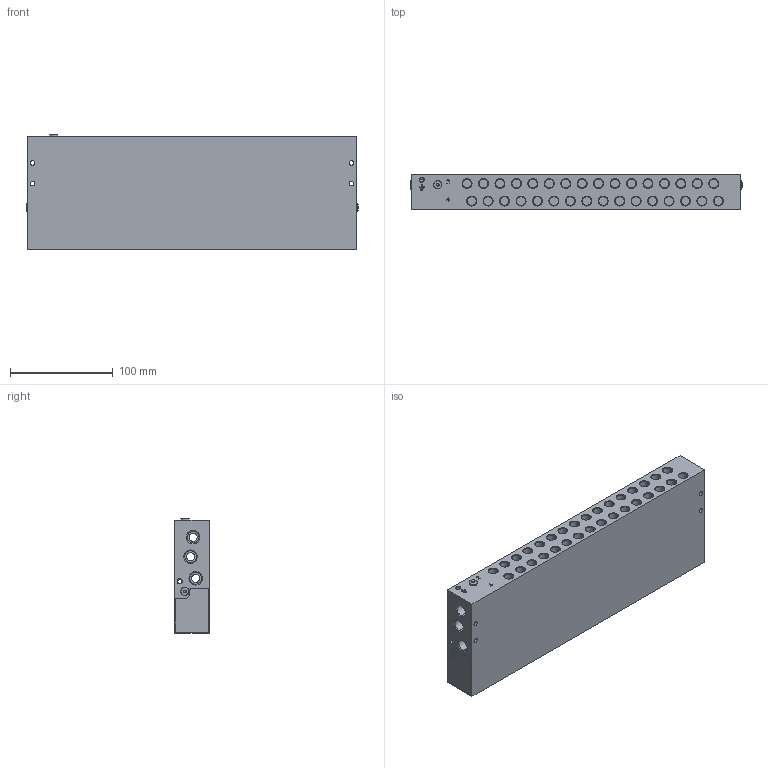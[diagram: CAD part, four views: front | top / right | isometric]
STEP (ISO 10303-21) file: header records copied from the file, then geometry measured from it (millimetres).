
FILE_DESCRIPTION (( 'STEP AP214' ), '1' );
FILE_NAME ('GÖVDE.STEP', '2026-07-24T08:38:21', ( '' ), ( '' ), 'SwSTEP 2.0', 'SolidWorks 2023', '' );
FILE_SCHEMA (( 'AUTOMOTIVE_DESIGN' ));
Length unit declared in the file: millimetre
Products named in the file (5): _VGVT14_dutou_2; GÖVDE; TGVT-M14-16-16M-S44.stp; _VGVT-M14-16-RRRRBBBBBBBBBBBB(320)_huiliuban; TGVT-M14-16-16M-S44(2)
Assembly tree (6 placements, depth 4):
  GÖVDE
    TGVT-M14-16-16M-S44(2)
      TGVT-M14-16-16M-S44.stp
        _VGVT-M14-16-RRRRBBBBBBBBBBBB(320)_huiliuban
        _VGVT14_dutou_2  x3
Bounding box: 323 x 33.8 x 111.5 mm (x, y, z)
Volume: 1089689.6 mm3; surface area: 152672.7 mm2
Topology: 4 solids, 4 shells, 610 faces, 1481 edges, 952 vertices
Faces by surface type: cylinder 259, plane 225, cone 126
Entity records: 18876 total; most frequent: CARTESIAN_POINT 4767, DIRECTION 3107, ORIENTED_EDGE 2762, EDGE_CURVE 1381, AXIS2_PLACEMENT_3D 1187, VERTEX_POINT 896, LINE 733, VECTOR 733
